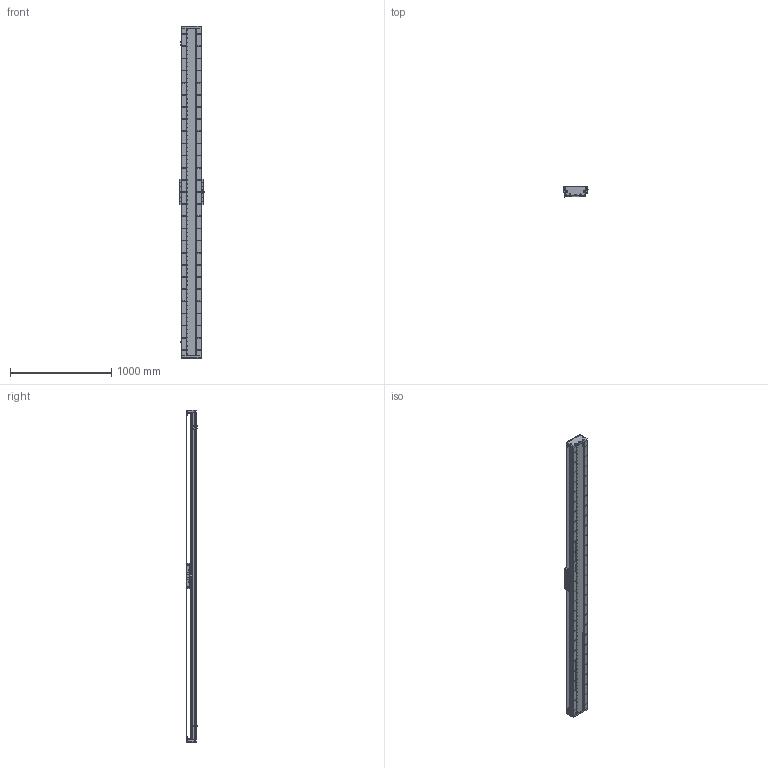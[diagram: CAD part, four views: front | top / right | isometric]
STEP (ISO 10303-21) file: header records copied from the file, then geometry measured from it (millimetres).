
FILE_DESCRIPTION (( 'STEP AP203' ), '1' );
FILE_NAME ('DA-C195-C3-T2940-C010-0.2 眻盄萇儂.STEP', '2025-08-15T01:28:56', ( '' ), ( '' ), 'SwSTEP 2.0', 'SolidWorks 2019', '' );
FILE_SCHEMA (( 'CONFIG_CONTROL_DESIGN' ));
Length unit declared in the file: millimetre
Products named in the file (15): DA-C195-GD-DB-H-00 傷啣; DA195詩湍菜輸; CU195-C3賑輸-俋楷; DA165-GYP-00 光电感应片(默认); DA-C195-C3-T2940-C010-0.2 眻盄萇儂; DA195詩湍裔啣; LMT黍杅芛; IU-CU195-L 菁釱絳寢; 葩璃 DA95-GT-T-00; DA195詩湍郪璃; DA195詩湍嶺輸; DA95-HXJ-00 遣喳砎蝶; IU-CU195-L-00 菁釱(L3240); MS200 棠掑喜S315-T240; PM-T45ㄗ侂狟ㄘ
Assembly tree (29 placements, depth 3):
  DA-C195-C3-T2940-C010-0.2 眻盄萇儂
    DA195詩湍郪璃
      DA195詩湍菜輸  x2
      DA195詩湍裔啣
      DA195詩湍嶺輸  x2
      DA95-HXJ-00 遣喳砎蝶  x8
      DA-C195-GD-DB-H-00 傷啣  x2
    IU-CU195-L 菁釱絳寢
      IU-CU195-L-00 菁釱(L3240)
      葩璃 DA95-GT-T-00  x4
    LMT黍杅芛
    MS200 棠掑喜S315-T240
    PM-T45ㄗ侂狟ㄘ  x3
    DA165-GYP-00 光电感应片(默认)
    CU195-C3賑輸-俋楷
Bounding box: 248 x 115.45 x 3280 mm (x, y, z)
Volume: 18753629.1 mm3; surface area: 5554488.4 mm2
Topology: 86 solids, 118 shells, 4594 faces, 13191 edges, 8353 vertices
Faces by surface type: cylinder 2618, plane 1374, cone 514, torus 52, sphere 36
Entity records: 153007 total; most frequent: CARTESIAN_POINT 43072, ORIENTED_EDGE 23298, DIRECTION 21942, EDGE_CURVE 11649, AXIS2_PLACEMENT_3D 8257, VERTEX_POINT 7555, LINE 5428, VECTOR 5428
